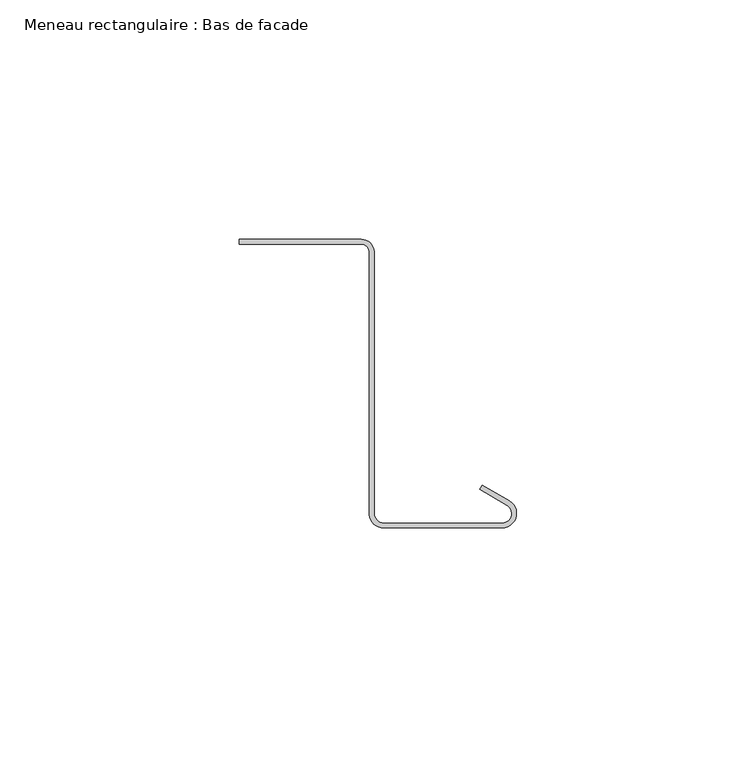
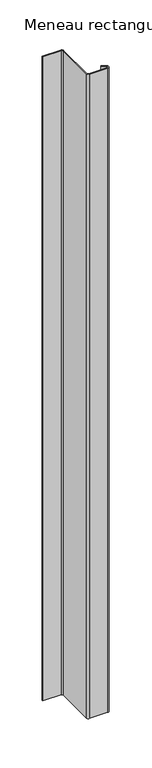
"""IFC4 building model written with IfcOpenShell, lengths in millimetres: member geometry, Meneau rectangulaire : Bas de facade."""

from ifc_helpers import new_model, si_unit, point, frame, frame_2d, origin, place, context, project, spatial, polyline, circle_curve, trimmed, segment, composite_curve, outline, extrude, source, transform, mapped, element, save


def meneau_rectangulaire_bas_de_facade_e577a29c(model_context):
    return source(origin(), model_context, "Body", "SweptSolid", [
        extrude(outline(composite_curve([segment(trimmed(circle_curve(frame_2d((-32.4584179, 0.2088923)), 2.75), [point((-32.4584179, 2.9588923))], [point((-29.7143802, 0.3898824))], False, "CARTESIAN"), True, "CONTINUOUS"), segment(polyline([(-29.7143802, 0.3898824), (-29.7143802, -54.5495817)]), True, "CONTINUOUS"), segment(trimmed(circle_curve(frame_2d((-27.735368, -54.2605998)), 2.0), [point((-29.7143802, -54.5495817))], [point((-27.735368, -56.2605998))], True, "CARTESIAN"), True, "CONTINUOUS"), segment(polyline([(-27.735368, -56.2605998), (-3.0, -56.2605998)]), True, "CONTINUOUS"), segment(trimmed(circle_curve(frame_2d((-3.0, -54.2605998)), 2.0), [point((-3.0, -56.2605998))], [point((-2.0, -52.528549))], True, "CARTESIAN"), True, "CONTINUOUS"), segment(polyline([(-2.0, -52.528549), (-7.6638061, -49.258549), (-7.1638061, -48.3925235), (-1.5, -51.6625235)]), True, "CONTINUOUS"), segment(trimmed(circle_curve(frame_2d((-3.0, -54.2605998)), 3.0), [point((-1.5, -51.6625235))], [point((-3.0, -57.2605998))], False, "CARTESIAN"), True, "CONTINUOUS"), segment(polyline([(-3.0, -57.2605998), (-27.735368, -57.2605998)]), True, "CONTINUOUS"), segment(trimmed(circle_curve(frame_2d((-27.735368, -54.2605998)), 3.0), [point((-27.735368, -57.2605998))], [point((-30.7239521, -54.522067))], False, "CARTESIAN"), True, "CONTINUOUS"), segment(polyline([(-30.7239521, -54.522067), (-30.7239521, 0.4415475)]), True, "CONTINUOUS"), segment(trimmed(circle_curve(frame_2d((-32.4584179, 0.2088923)), 1.75), [point((-30.7239521, 0.4415475))], [point((-32.4584179, 1.9588923))], True, "CARTESIAN"), True, "CONTINUOUS"), segment(polyline([(-32.4584179, 1.9588923), (-57.8548383, 1.9588923), (-57.8548383, 2.9588923), (-32.4584179, 2.9588923)]), True, "CONTINUOUS")], self_intersect=False)), frame((0.0, 0.0, -930.0), z_axis=(0.0, 0.0, 1.0), x_axis=(1.0, 0.0, 0.0)), (0.0, 0.0, 1.0), 930.0),
    ])


if __name__ == "__main__":
    model = new_model("IFC4")
    model_context = context("Model", 3, world=origin())
    ifc_project = project(units=[si_unit("LENGTHUNIT", "METRE", prefix="MILLI")], contexts=[model_context])
    site = spatial("IfcSite", under=ifc_project)
    building = spatial("IfcBuilding", under=site)
    placement = place(None, origin())
    meneau_rectangulaire_bas_de_facade_shape = meneau_rectangulaire_bas_de_facade_e577a29c(model_context)
    element("IfcMember", 1, ObjectType="Meneau rectangulaire : Bas de facade", at=placement, inside=building, context=model_context, shape_type="MappedRepresentation", body=[
        mapped(meneau_rectangulaire_bas_de_facade_shape, transform((0.0, 0.0, 0.0), x_axis=(1.0, 0.0, 0.0), y_axis=(0.0, 1.0, 0.0), z_axis=(0.0, 0.0, 1.0))),
    ])
    save(model, "model.ifc")
